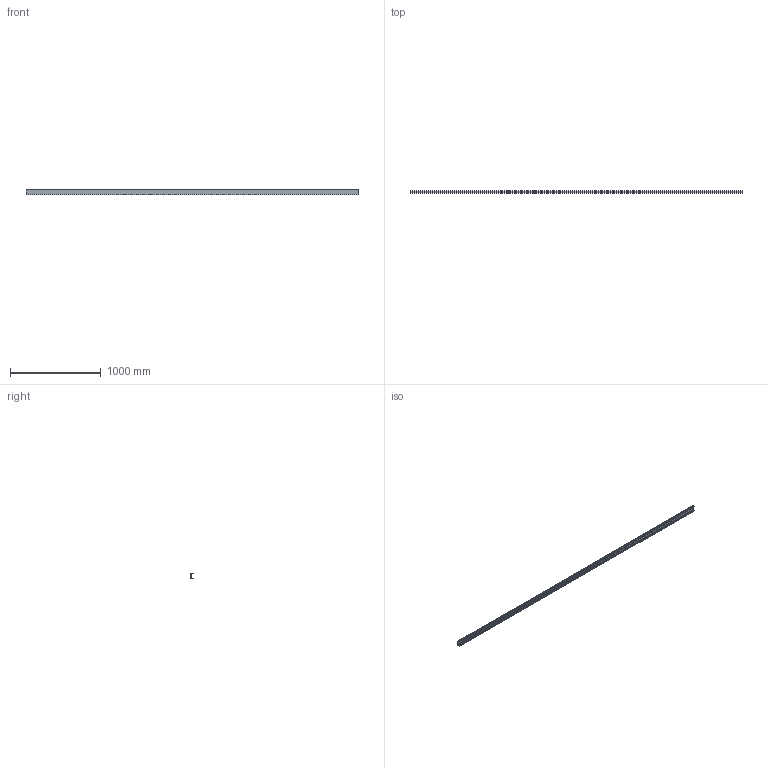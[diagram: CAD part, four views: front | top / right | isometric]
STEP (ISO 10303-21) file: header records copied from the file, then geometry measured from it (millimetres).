
FILE_DESCRIPTION( ( '' ), '1' );
FILE_NAME( 'C:/Documents and Settings/Nikhil/Desktop/Nik/Done/9995920.stp', '2013-10-23T08:23:47', ( '' ), ( '' ), ' ', ' ', ' ' );
FILE_SCHEMA( ( 'automotive_design' ) );
Length unit declared in the file: millimetre
Products named in the file (1): 1
Bounding box: 3660 x 24.85 x 62 mm (x, y, z)
Volume: 1242568.7 mm3; surface area: 960220 mm2
Topology: 1 solids, 1 shells, 41 faces, 117 edges, 78 vertices
Faces by surface type: plane 29, cylinder 12
Entity records: 2662 total; most frequent: STYLED_ITEM 237, PRESENTATION_STYLE_ASSIGNMENT 237, CARTESIAN_POINT 237, COLOUR_RGB 237, ORIENTED_EDGE 234, DIRECTION 225, EDGE_CURVE 117, CURVE_STYLE 117
